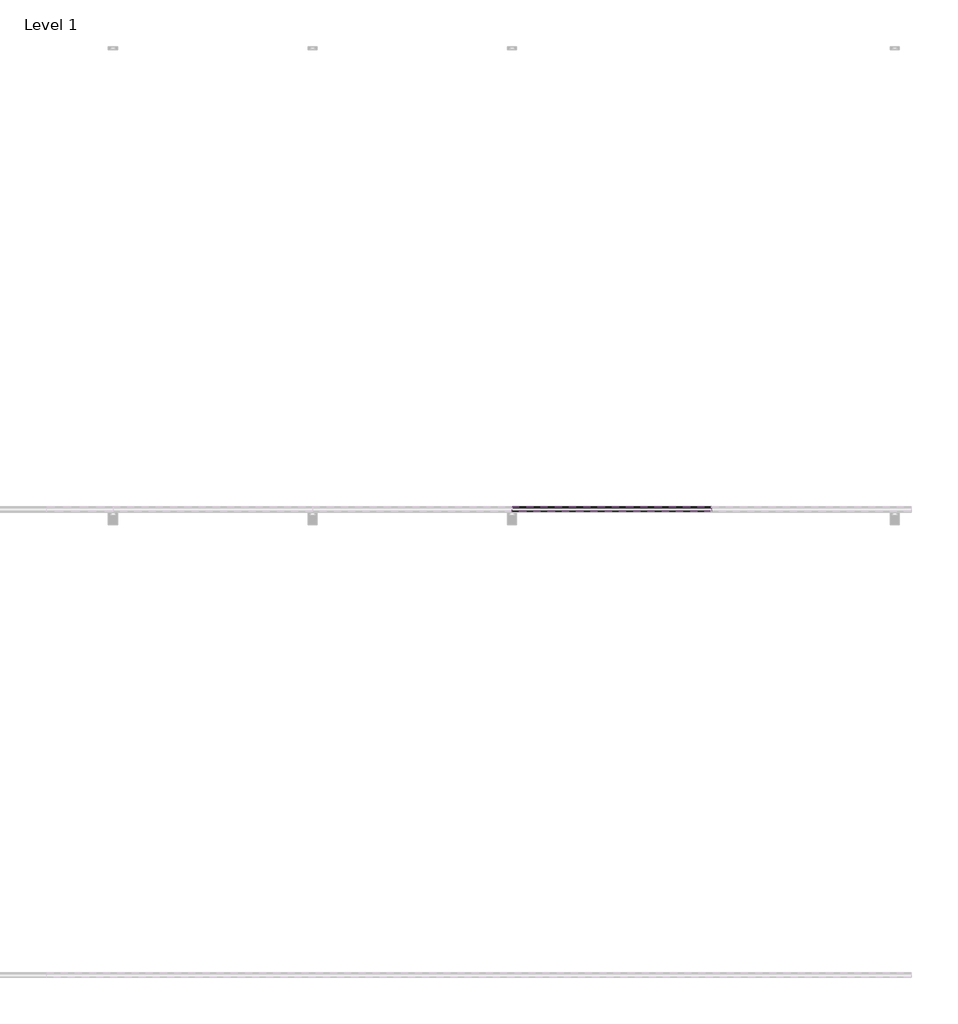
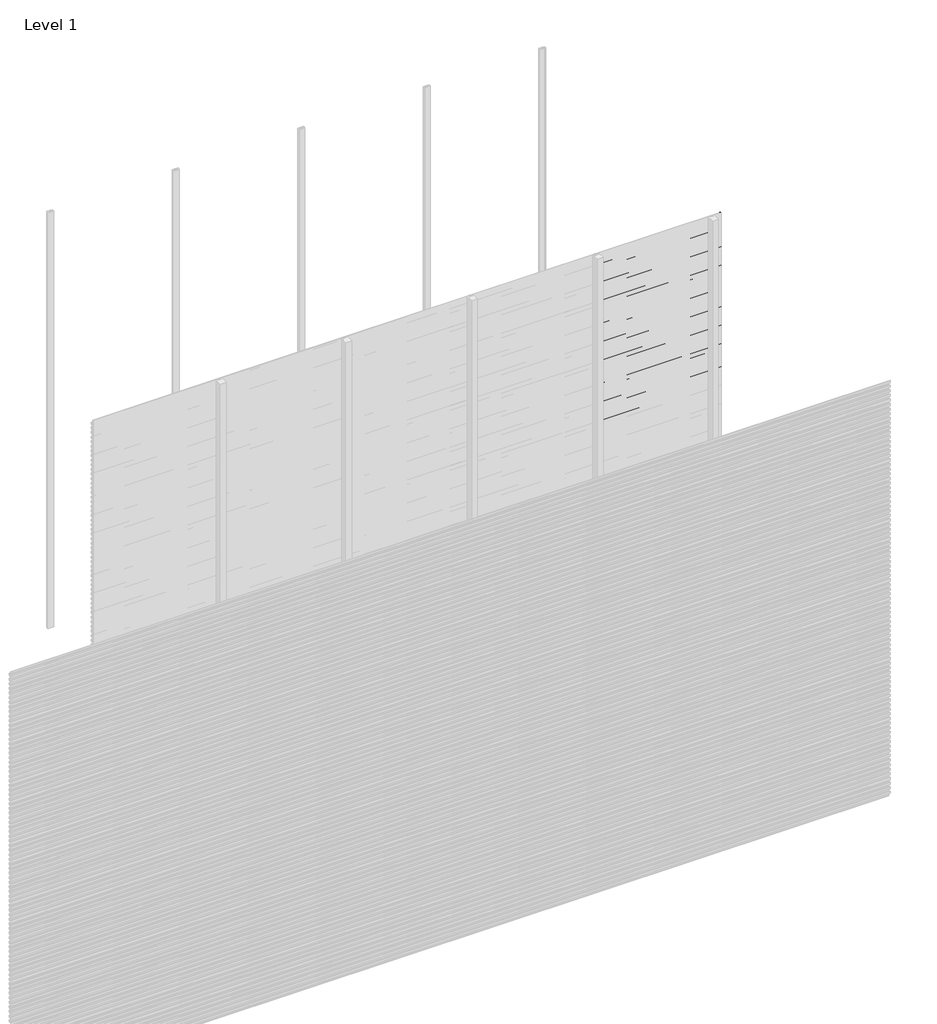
# One storey, part 49 of 96: 77 proxies.
"""IFC4 building model written with IfcOpenShell, lengths in millimetres."""

from ifc_helpers import new_model, si_unit, frame, origin, place, context, project, spatial, polyline, outline, extrude, element, save

model = new_model("IFC4")

# Units and contexts
model_context = context("Model", 3, world=origin())
ifc_project = project(units=[si_unit("LENGTHUNIT", "METRE", prefix="MILLI")], contexts=[model_context])

# Site, building, storey
site = spatial("IfcSite", under=ifc_project)
building = spatial("IfcBuilding", under=site)
storey = spatial("IfcBuildingStorey", under=building, Name="Level 1", Elevation=0.0)

# Proxies
placement = place(None, origin())
element("IfcBuildingElementProxy", 1, Name="Wall Sweeps", at=placement, inside=storey, context=model_context, shape_type="SweptSolid", body=[
    extrude(outline(polyline([(-29977.6, 1306.7655033), (-29977.6, 1292.4779188), (-29982.4114965, 1289.7), (-29982.4114965, 1290.9701706), (-29978.85, 1293.0264016), (-29978.85, 1306.0437382), (-29998.0, 1317.1000799), (-29998.0, 1332.0), (-29996.75, 1332.0), (-29996.75, 1317.8217609), (-29977.6, 1306.7655033)])), frame((4285.7142857, 0.0, 0.0), z_axis=(1.0, 0.0, 0.0), x_axis=(0.0, 1.0, 0.0)), (0.0, 0.0, 1.0), 857.1428571),
])
element("IfcBuildingElementProxy", 2, Name="Wall Sweeps", at=placement, inside=storey, context=model_context, shape_type="SweptSolid", body=[
    extrude(outline(polyline([(-29977.6, 1273.4655033), (-29977.6, 1259.1779188), (-29982.4114965, 1256.4), (-29982.4114965, 1257.6701706), (-29978.85, 1259.7264016), (-29978.85, 1272.7437382), (-29998.0, 1283.8000799), (-29998.0, 1298.7), (-29996.75, 1298.7), (-29996.75, 1284.5217609), (-29977.6, 1273.4655033)])), frame((4285.7142857, 0.0, 0.0), z_axis=(1.0, 0.0, 0.0), x_axis=(0.0, 1.0, 0.0)), (0.0, 0.0, 1.0), 857.1428571),
])
element("IfcBuildingElementProxy", 3, Name="Wall Sweeps", at=placement, inside=storey, context=model_context, shape_type="SweptSolid", body=[
    extrude(outline(polyline([(-29977.6, 1240.1655033), (-29977.6, 1225.8779188), (-29982.4114965, 1223.1), (-29982.4114965, 1224.3701706), (-29978.85, 1226.4264016), (-29978.85, 1239.4437382), (-29998.0, 1250.5000799), (-29998.0, 1265.4), (-29996.75, 1265.4), (-29996.75, 1251.2217609), (-29977.6, 1240.1655033)])), frame((4285.7142857, 0.0, 0.0), z_axis=(1.0, 0.0, 0.0), x_axis=(0.0, 1.0, 0.0)), (0.0, 0.0, 1.0), 857.1428571),
])
element("IfcBuildingElementProxy", 4, Name="Wall Sweeps", at=placement, inside=storey, context=model_context, shape_type="SweptSolid", body=[
    extrude(outline(polyline([(-29977.6, 1206.8655033), (-29977.6, 1192.5779188), (-29982.4114965, 1189.8), (-29982.4114965, 1191.0701706), (-29978.85, 1193.1264016), (-29978.85, 1206.1437382), (-29998.0, 1217.2000799), (-29998.0, 1232.1), (-29996.75, 1232.1), (-29996.75, 1217.9217609), (-29977.6, 1206.8655033)])), frame((4285.7142857, 0.0, 0.0), z_axis=(1.0, 0.0, 0.0), x_axis=(0.0, 1.0, 0.0)), (0.0, 0.0, 1.0), 857.1428571),
])
element("IfcBuildingElementProxy", 5, Name="Wall Sweeps", at=placement, inside=storey, context=model_context, shape_type="SweptSolid", body=[
    extrude(outline(polyline([(-29977.6, 1173.5655033), (-29977.6, 1159.2779188), (-29982.4114965, 1156.5), (-29982.4114965, 1157.7701706), (-29978.85, 1159.8264016), (-29978.85, 1172.8437382), (-29998.0, 1183.9000799), (-29998.0, 1198.8), (-29996.75, 1198.8), (-29996.75, 1184.6217609), (-29977.6, 1173.5655033)])), frame((4285.7142857, 0.0, 0.0), z_axis=(1.0, 0.0, 0.0), x_axis=(0.0, 1.0, 0.0)), (0.0, 0.0, 1.0), 857.1428571),
])
element("IfcBuildingElementProxy", 6, Name="Wall Sweeps", at=placement, inside=storey, context=model_context, shape_type="SweptSolid", body=[
    extrude(outline(polyline([(-29977.6, 1140.2655033), (-29977.6, 1125.9779188), (-29982.4114965, 1123.2), (-29982.4114965, 1124.4701706), (-29978.85, 1126.5264016), (-29978.85, 1139.5437382), (-29998.0, 1150.6000799), (-29998.0, 1165.5), (-29996.75, 1165.5), (-29996.75, 1151.3217609), (-29977.6, 1140.2655033)])), frame((4285.7142857, 0.0, 0.0), z_axis=(1.0, 0.0, 0.0), x_axis=(0.0, 1.0, 0.0)), (0.0, 0.0, 1.0), 857.1428571),
])
element("IfcBuildingElementProxy", 7, Name="Wall Sweeps", at=placement, inside=storey, context=model_context, shape_type="SweptSolid", body=[
    extrude(outline(polyline([(-29977.6, 1106.9655033), (-29977.6, 1092.6779188), (-29982.4114965, 1089.9), (-29982.4114965, 1091.1701706), (-29978.85, 1093.2264016), (-29978.85, 1106.2437382), (-29998.0, 1117.3000799), (-29998.0, 1132.2), (-29996.75, 1132.2), (-29996.75, 1118.0217609), (-29977.6, 1106.9655033)])), frame((4285.7142857, 0.0, 0.0), z_axis=(1.0, 0.0, 0.0), x_axis=(0.0, 1.0, 0.0)), (0.0, 0.0, 1.0), 857.1428571),
])
element("IfcBuildingElementProxy", 8, Name="Wall Sweeps", at=placement, inside=storey, context=model_context, shape_type="SweptSolid", body=[
    extrude(outline(polyline([(-29977.6, 1073.6655033), (-29977.6, 1059.3779188), (-29982.4114965, 1056.6), (-29982.4114965, 1057.8701706), (-29978.85, 1059.9264016), (-29978.85, 1072.9437382), (-29998.0, 1084.0000799), (-29998.0, 1098.9), (-29996.75, 1098.9), (-29996.75, 1084.7217609), (-29977.6, 1073.6655033)])), frame((4285.7142857, 0.0, 0.0), z_axis=(1.0, 0.0, 0.0), x_axis=(0.0, 1.0, 0.0)), (0.0, 0.0, 1.0), 857.1428571),
])
element("IfcBuildingElementProxy", 9, Name="Wall Sweeps", at=placement, inside=storey, context=model_context, shape_type="SweptSolid", body=[
    extrude(outline(polyline([(-29977.6, 1040.3655033), (-29977.6, 1026.0779188), (-29982.4114965, 1023.3), (-29982.4114965, 1024.5701706), (-29978.85, 1026.6264016), (-29978.85, 1039.6437382), (-29998.0, 1050.7000799), (-29998.0, 1065.6), (-29996.75, 1065.6), (-29996.75, 1051.4217609), (-29977.6, 1040.3655033)])), frame((4285.7142857, 0.0, 0.0), z_axis=(1.0, 0.0, 0.0), x_axis=(0.0, 1.0, 0.0)), (0.0, 0.0, 1.0), 857.1428571),
])
element("IfcBuildingElementProxy", 10, Name="Wall Sweeps", at=placement, inside=storey, context=model_context, shape_type="SweptSolid", body=[
    extrude(outline(polyline([(-29977.6, 1007.0655033), (-29977.6, 992.7779188), (-29982.4114965, 990.0), (-29982.4114965, 991.2701706), (-29978.85, 993.3264016), (-29978.85, 1006.3437382), (-29998.0, 1017.4000799), (-29998.0, 1032.3), (-29996.75, 1032.3), (-29996.75, 1018.1217609), (-29977.6, 1007.0655033)])), frame((4285.7142857, 0.0, 0.0), z_axis=(1.0, 0.0, 0.0), x_axis=(0.0, 1.0, 0.0)), (0.0, 0.0, 1.0), 857.1428571),
])
element("IfcBuildingElementProxy", 11, Name="Wall Sweeps", at=placement, inside=storey, context=model_context, shape_type="SweptSolid", body=[
    extrude(outline(polyline([(-29977.6, 973.7655033), (-29977.6, 959.4779188), (-29982.4114965, 956.7), (-29982.4114965, 957.9701706), (-29978.85, 960.0264016), (-29978.85, 973.0437382), (-29998.0, 984.1000799), (-29998.0, 999.0), (-29996.75, 999.0), (-29996.75, 984.8217609), (-29977.6, 973.7655033)])), frame((4285.7142857, 0.0, 0.0), z_axis=(1.0, 0.0, 0.0), x_axis=(0.0, 1.0, 0.0)), (0.0, 0.0, 1.0), 857.1428571),
])
element("IfcBuildingElementProxy", 12, Name="Wall Sweeps", at=placement, inside=storey, context=model_context, shape_type="SweptSolid", body=[
    extrude(outline(polyline([(-29977.6, 940.4655033), (-29977.6, 926.1779188), (-29982.4114965, 923.4), (-29982.4114965, 924.6701706), (-29978.85, 926.7264016), (-29978.85, 939.7437382), (-29998.0, 950.8000799), (-29998.0, 965.7), (-29996.75, 965.7), (-29996.75, 951.5217609), (-29977.6, 940.4655033)])), frame((4285.7142857, 0.0, 0.0), z_axis=(1.0, 0.0, 0.0), x_axis=(0.0, 1.0, 0.0)), (0.0, 0.0, 1.0), 857.1428571),
])
element("IfcBuildingElementProxy", 13, Name="Wall Sweeps", at=placement, inside=storey, context=model_context, shape_type="SweptSolid", body=[
    extrude(outline(polyline([(-29977.6, 907.1655033), (-29977.6, 892.8779188), (-29982.4114965, 890.1), (-29982.4114965, 891.3701706), (-29978.85, 893.4264016), (-29978.85, 906.4437382), (-29998.0, 917.5000799), (-29998.0, 932.4), (-29996.75, 932.4), (-29996.75, 918.2217609), (-29977.6, 907.1655033)])), frame((4285.7142857, 0.0, 0.0), z_axis=(1.0, 0.0, 0.0), x_axis=(0.0, 1.0, 0.0)), (0.0, 0.0, 1.0), 857.1428571),
])
element("IfcBuildingElementProxy", 14, Name="Wall Sweeps", at=placement, inside=storey, context=model_context, shape_type="SweptSolid", body=[
    extrude(outline(polyline([(-29977.6, 873.8655033), (-29977.6, 859.5779188), (-29982.4114965, 856.8), (-29982.4114965, 858.0701706), (-29978.85, 860.1264016), (-29978.85, 873.1437382), (-29998.0, 884.2000799), (-29998.0, 899.1), (-29996.75, 899.1), (-29996.75, 884.9217609), (-29977.6, 873.8655033)])), frame((4285.7142857, 0.0, 0.0), z_axis=(1.0, 0.0, 0.0), x_axis=(0.0, 1.0, 0.0)), (0.0, 0.0, 1.0), 857.1428571),
])
element("IfcBuildingElementProxy", 15, Name="Wall Sweeps", at=placement, inside=storey, context=model_context, shape_type="SweptSolid", body=[
    extrude(outline(polyline([(-29977.6, 840.5655033), (-29977.6, 826.2779188), (-29982.4114965, 823.5), (-29982.4114965, 824.7701706), (-29978.85, 826.8264016), (-29978.85, 839.8437382), (-29998.0, 850.9000799), (-29998.0, 865.8), (-29996.75, 865.8), (-29996.75, 851.6217609), (-29977.6, 840.5655033)])), frame((4285.7142857, 0.0, 0.0), z_axis=(1.0, 0.0, 0.0), x_axis=(0.0, 1.0, 0.0)), (0.0, 0.0, 1.0), 857.1428571),
])
element("IfcBuildingElementProxy", 16, Name="Wall Sweeps", at=placement, inside=storey, context=model_context, shape_type="SweptSolid", body=[
    extrude(outline(polyline([(-29977.6, 807.2655033), (-29977.6, 792.9779188), (-29982.4114965, 790.2), (-29982.4114965, 791.4701706), (-29978.85, 793.5264016), (-29978.85, 806.5437382), (-29998.0, 817.6000799), (-29998.0, 832.5), (-29996.75, 832.5), (-29996.75, 818.3217609), (-29977.6, 807.2655033)])), frame((4285.7142857, 0.0, 0.0), z_axis=(1.0, 0.0, 0.0), x_axis=(0.0, 1.0, 0.0)), (0.0, 0.0, 1.0), 857.1428571),
])
element("IfcBuildingElementProxy", 17, Name="Wall Sweeps", at=placement, inside=storey, context=model_context, shape_type="SweptSolid", body=[
    extrude(outline(polyline([(-29977.6, 773.9655033), (-29977.6, 759.6779188), (-29982.4114965, 756.9), (-29982.4114965, 758.1701706), (-29978.85, 760.2264016), (-29978.85, 773.2437382), (-29998.0, 784.3000799), (-29998.0, 799.2), (-29996.75, 799.2), (-29996.75, 785.0217609), (-29977.6, 773.9655033)])), frame((4285.7142857, 0.0, 0.0), z_axis=(1.0, 0.0, 0.0), x_axis=(0.0, 1.0, 0.0)), (0.0, 0.0, 1.0), 857.1428571),
])
element("IfcBuildingElementProxy", 18, Name="Wall Sweeps", at=placement, inside=storey, context=model_context, shape_type="SweptSolid", body=[
    extrude(outline(polyline([(-29977.6, 740.6655033), (-29977.6, 726.3779188), (-29982.4114965, 723.6), (-29982.4114965, 724.8701706), (-29978.85, 726.9264016), (-29978.85, 739.9437382), (-29998.0, 751.0000799), (-29998.0, 765.9), (-29996.75, 765.9), (-29996.75, 751.7217609), (-29977.6, 740.6655033)])), frame((4285.7142857, 0.0, 0.0), z_axis=(1.0, 0.0, 0.0), x_axis=(0.0, 1.0, 0.0)), (0.0, 0.0, 1.0), 857.1428571),
])
element("IfcBuildingElementProxy", 19, Name="Wall Sweeps", at=placement, inside=storey, context=model_context, shape_type="SweptSolid", body=[
    extrude(outline(polyline([(-29977.6, 707.3655033), (-29977.6, 693.0779188), (-29982.4114965, 690.3), (-29982.4114965, 691.5701706), (-29978.85, 693.6264016), (-29978.85, 706.6437382), (-29998.0, 717.7000799), (-29998.0, 732.6), (-29996.75, 732.6), (-29996.75, 718.4217609), (-29977.6, 707.3655033)])), frame((4285.7142857, 0.0, 0.0), z_axis=(1.0, 0.0, 0.0), x_axis=(0.0, 1.0, 0.0)), (0.0, 0.0, 1.0), 857.1428571),
])
element("IfcBuildingElementProxy", 20, Name="Wall Sweeps", at=placement, inside=storey, context=model_context, shape_type="SweptSolid", body=[
    extrude(outline(polyline([(-29977.6, 674.0655033), (-29977.6, 659.7779188), (-29982.4114965, 657.0), (-29982.4114965, 658.2701706), (-29978.85, 660.3264016), (-29978.85, 673.3437382), (-29998.0, 684.4000799), (-29998.0, 699.3), (-29996.75, 699.3), (-29996.75, 685.1217609), (-29977.6, 674.0655033)])), frame((4285.7142857, 0.0, 0.0), z_axis=(1.0, 0.0, 0.0), x_axis=(0.0, 1.0, 0.0)), (0.0, 0.0, 1.0), 857.1428571),
])
element("IfcBuildingElementProxy", 21, Name="Wall Sweeps", at=placement, inside=storey, context=model_context, shape_type="SweptSolid", body=[
    extrude(outline(polyline([(-29977.6, 640.7655033), (-29977.6, 626.4779188), (-29982.4114965, 623.7), (-29982.4114965, 624.9701706), (-29978.85, 627.0264016), (-29978.85, 640.0437382), (-29998.0, 651.1000799), (-29998.0, 666.0), (-29996.75, 666.0), (-29996.75, 651.8217609), (-29977.6, 640.7655033)])), frame((4285.7142857, 0.0, 0.0), z_axis=(1.0, 0.0, 0.0), x_axis=(0.0, 1.0, 0.0)), (0.0, 0.0, 1.0), 857.1428571),
])
element("IfcBuildingElementProxy", 22, Name="Wall Sweeps", at=placement, inside=storey, context=model_context, shape_type="SweptSolid", body=[
    extrude(outline(polyline([(-29977.6, 607.4655033), (-29977.6, 593.1779188), (-29982.4114965, 590.4), (-29982.4114965, 591.6701706), (-29978.85, 593.7264016), (-29978.85, 606.7437382), (-29998.0, 617.8000799), (-29998.0, 632.7), (-29996.75, 632.7), (-29996.75, 618.5217609), (-29977.6, 607.4655033)])), frame((4285.7142857, 0.0, 0.0), z_axis=(1.0, 0.0, 0.0), x_axis=(0.0, 1.0, 0.0)), (0.0, 0.0, 1.0), 857.1428571),
])
element("IfcBuildingElementProxy", 23, Name="Wall Sweeps", at=placement, inside=storey, context=model_context, shape_type="SweptSolid", body=[
    extrude(outline(polyline([(-29977.6, 574.1655033), (-29977.6, 559.8779188), (-29982.4114965, 557.1), (-29982.4114965, 558.3701706), (-29978.85, 560.4264016), (-29978.85, 573.4437382), (-29998.0, 584.5000799), (-29998.0, 599.4), (-29996.75, 599.4), (-29996.75, 585.2217609), (-29977.6, 574.1655033)])), frame((4285.7142857, 0.0, 0.0), z_axis=(1.0, 0.0, 0.0), x_axis=(0.0, 1.0, 0.0)), (0.0, 0.0, 1.0), 857.1428571),
])
element("IfcBuildingElementProxy", 24, Name="Wall Sweeps", at=placement, inside=storey, context=model_context, shape_type="SweptSolid", body=[
    extrude(outline(polyline([(-29977.6, 540.8655033), (-29977.6, 526.5779188), (-29982.4114965, 523.8), (-29982.4114965, 525.0701706), (-29978.85, 527.1264016), (-29978.85, 540.1437382), (-29998.0, 551.2000799), (-29998.0, 566.1), (-29996.75, 566.1), (-29996.75, 551.9217609), (-29977.6, 540.8655033)])), frame((4285.7142857, 0.0, 0.0), z_axis=(1.0, 0.0, 0.0), x_axis=(0.0, 1.0, 0.0)), (0.0, 0.0, 1.0), 857.1428571),
])
element("IfcBuildingElementProxy", 25, Name="Wall Sweeps", at=placement, inside=storey, context=model_context, shape_type="SweptSolid", body=[
    extrude(outline(polyline([(-29977.6, 507.5655033), (-29977.6, 493.2779188), (-29982.4114965, 490.5), (-29982.4114965, 491.7701706), (-29978.85, 493.8264016), (-29978.85, 506.8437382), (-29998.0, 517.9000799), (-29998.0, 532.8), (-29996.75, 532.8), (-29996.75, 518.6217609), (-29977.6, 507.5655033)])), frame((4285.7142857, 0.0, 0.0), z_axis=(1.0, 0.0, 0.0), x_axis=(0.0, 1.0, 0.0)), (0.0, 0.0, 1.0), 857.1428571),
])
element("IfcBuildingElementProxy", 26, Name="Wall Sweeps", at=placement, inside=storey, context=model_context, shape_type="SweptSolid", body=[
    extrude(outline(polyline([(-29977.6, 474.2655033), (-29977.6, 459.9779188), (-29982.4114965, 457.2), (-29982.4114965, 458.4701706), (-29978.85, 460.5264016), (-29978.85, 473.5437382), (-29998.0, 484.6000799), (-29998.0, 499.5), (-29996.75, 499.5), (-29996.75, 485.3217609), (-29977.6, 474.2655033)])), frame((4285.7142857, 0.0, 0.0), z_axis=(1.0, 0.0, 0.0), x_axis=(0.0, 1.0, 0.0)), (0.0, 0.0, 1.0), 857.1428571),
])
element("IfcBuildingElementProxy", 27, Name="Wall Sweeps", at=placement, inside=storey, context=model_context, shape_type="SweptSolid", body=[
    extrude(outline(polyline([(-29977.6, 440.9655033), (-29977.6, 426.6779188), (-29982.4114965, 423.9), (-29982.4114965, 425.1701706), (-29978.85, 427.2264016), (-29978.85, 440.2437382), (-29998.0, 451.3000799), (-29998.0, 466.2), (-29996.75, 466.2), (-29996.75, 452.0217609), (-29977.6, 440.9655033)])), frame((4285.7142857, 0.0, 0.0), z_axis=(1.0, 0.0, 0.0), x_axis=(0.0, 1.0, 0.0)), (0.0, 0.0, 1.0), 857.1428571),
])
element("IfcBuildingElementProxy", 28, Name="Wall Sweeps", at=placement, inside=storey, context=model_context, shape_type="SweptSolid", body=[
    extrude(outline(polyline([(-29977.6, 407.6655033), (-29977.6, 393.3779188), (-29982.4114965, 390.6), (-29982.4114965, 391.8701706), (-29978.85, 393.9264016), (-29978.85, 406.9437382), (-29998.0, 418.0000799), (-29998.0, 432.9), (-29996.75, 432.9), (-29996.75, 418.7217609), (-29977.6, 407.6655033)])), frame((4285.7142857, 0.0, 0.0), z_axis=(1.0, 0.0, 0.0), x_axis=(0.0, 1.0, 0.0)), (0.0, 0.0, 1.0), 857.1428571),
])
element("IfcBuildingElementProxy", 29, Name="Wall Sweeps", at=placement, inside=storey, context=model_context, shape_type="SweptSolid", body=[
    extrude(outline(polyline([(-29977.6, 374.3655033), (-29977.6, 360.0779188), (-29982.4114965, 357.3), (-29982.4114965, 358.5701706), (-29978.85, 360.6264016), (-29978.85, 373.6437382), (-29998.0, 384.7000799), (-29998.0, 399.6), (-29996.75, 399.6), (-29996.75, 385.4217609), (-29977.6, 374.3655033)])), frame((4285.7142857, 0.0, 0.0), z_axis=(1.0, 0.0, 0.0), x_axis=(0.0, 1.0, 0.0)), (0.0, 0.0, 1.0), 857.1428571),
])
element("IfcBuildingElementProxy", 30, Name="Wall Sweeps", at=placement, inside=storey, context=model_context, shape_type="SweptSolid", body=[
    extrude(outline(polyline([(-29977.6, 341.0655033), (-29977.6, 326.7779188), (-29982.4114965, 324.0), (-29982.4114965, 325.2701706), (-29978.85, 327.3264016), (-29978.85, 340.3437382), (-29998.0, 351.4000799), (-29998.0, 366.3), (-29996.75, 366.3), (-29996.75, 352.1217609), (-29977.6, 341.0655033)])), frame((4285.7142857, 0.0, 0.0), z_axis=(1.0, 0.0, 0.0), x_axis=(0.0, 1.0, 0.0)), (0.0, 0.0, 1.0), 857.1428571),
])
element("IfcBuildingElementProxy", 31, Name="Wall Sweeps", at=placement, inside=storey, context=model_context, shape_type="SweptSolid", body=[
    extrude(outline(polyline([(-29977.6, 307.7655033), (-29977.6, 293.4779188), (-29982.4114965, 290.7), (-29982.4114965, 291.9701706), (-29978.85, 294.0264016), (-29978.85, 307.0437382), (-29998.0, 318.1000799), (-29998.0, 333.0), (-29996.75, 333.0), (-29996.75, 318.8217609), (-29977.6, 307.7655033)])), frame((4285.7142857, 0.0, 0.0), z_axis=(1.0, 0.0, 0.0), x_axis=(0.0, 1.0, 0.0)), (0.0, 0.0, 1.0), 857.1428571),
])
element("IfcBuildingElementProxy", 32, Name="Wall Sweeps", at=placement, inside=storey, context=model_context, shape_type="SweptSolid", body=[
    extrude(outline(polyline([(-29977.6, 274.4655033), (-29977.6, 260.1779188), (-29982.4114965, 257.4), (-29982.4114965, 258.6701706), (-29978.85, 260.7264016), (-29978.85, 273.7437382), (-29998.0, 284.8000799), (-29998.0, 299.7), (-29996.75, 299.7), (-29996.75, 285.5217609), (-29977.6, 274.4655033)])), frame((4285.7142857, 0.0, 0.0), z_axis=(1.0, 0.0, 0.0), x_axis=(0.0, 1.0, 0.0)), (0.0, 0.0, 1.0), 857.1428571),
])
element("IfcBuildingElementProxy", 33, Name="Wall Sweeps", at=placement, inside=storey, context=model_context, shape_type="SweptSolid", body=[
    extrude(outline(polyline([(-29977.6, 241.1655033), (-29977.6, 226.8779188), (-29982.4114965, 224.1), (-29982.4114965, 225.3701706), (-29978.85, 227.4264016), (-29978.85, 240.4437382), (-29998.0, 251.5000799), (-29998.0, 266.4), (-29996.75, 266.4), (-29996.75, 252.2217609), (-29977.6, 241.1655033)])), frame((4285.7142857, 0.0, 0.0), z_axis=(1.0, 0.0, 0.0), x_axis=(0.0, 1.0, 0.0)), (0.0, 0.0, 1.0), 857.1428571),
])
element("IfcBuildingElementProxy", 34, Name="Wall Sweeps", at=placement, inside=storey, context=model_context, shape_type="SweptSolid", body=[
    extrude(outline(polyline([(-29977.6, 207.8655033), (-29977.6, 193.5779188), (-29982.4114965, 190.8), (-29982.4114965, 192.0701706), (-29978.85, 194.1264016), (-29978.85, 207.1437382), (-29998.0, 218.2000799), (-29998.0, 233.1), (-29996.75, 233.1), (-29996.75, 218.9217609), (-29977.6, 207.8655033)])), frame((4285.7142857, 0.0, 0.0), z_axis=(1.0, 0.0, 0.0), x_axis=(0.0, 1.0, 0.0)), (0.0, 0.0, 1.0), 857.1428571),
])
element("IfcBuildingElementProxy", 35, Name="Wall Sweeps", at=placement, inside=storey, context=model_context, shape_type="SweptSolid", body=[
    extrude(outline(polyline([(-29977.6, 174.5655033), (-29977.6, 160.2779188), (-29982.4114965, 157.5), (-29982.4114965, 158.7701706), (-29978.85, 160.8264016), (-29978.85, 173.8437382), (-29998.0, 184.9000799), (-29998.0, 199.8), (-29996.75, 199.8), (-29996.75, 185.6217609), (-29977.6, 174.5655033)])), frame((4285.7142857, 0.0, 0.0), z_axis=(1.0, 0.0, 0.0), x_axis=(0.0, 1.0, 0.0)), (0.0, 0.0, 1.0), 857.1428571),
])
element("IfcBuildingElementProxy", 36, Name="Wall Sweeps", at=placement, inside=storey, context=model_context, shape_type="SweptSolid", body=[
    extrude(outline(polyline([(-29977.6, 141.2655033), (-29977.6, 126.9779188), (-29982.4114965, 124.2), (-29982.4114965, 125.4701706), (-29978.85, 127.5264016), (-29978.85, 140.5437382), (-29998.0, 151.6000799), (-29998.0, 166.5), (-29996.75, 166.5), (-29996.75, 152.3217609), (-29977.6, 141.2655033)])), frame((4285.7142857, 0.0, 0.0), z_axis=(1.0, 0.0, 0.0), x_axis=(0.0, 1.0, 0.0)), (0.0, 0.0, 1.0), 857.1428571),
])
element("IfcBuildingElementProxy", 37, Name="Wall Sweeps", at=placement, inside=storey, context=model_context, shape_type="SweptSolid", body=[
    extrude(outline(polyline([(-29977.6, 107.9655033), (-29977.6, 93.6779188), (-29982.4114965, 90.9), (-29982.4114965, 92.1701706), (-29978.85, 94.2264016), (-29978.85, 107.2437382), (-29998.0, 118.3000799), (-29998.0, 133.2), (-29996.75, 133.2), (-29996.75, 119.0217609), (-29977.6, 107.9655033)])), frame((4285.7142857, 0.0, 0.0), z_axis=(1.0, 0.0, 0.0), x_axis=(0.0, 1.0, 0.0)), (0.0, 0.0, 1.0), 857.1428571),
])
element("IfcBuildingElementProxy", 38, Name="Wall Sweeps", at=placement, inside=storey, context=model_context, shape_type="SweptSolid", body=[
    extrude(outline(polyline([(-29977.6, 74.6655033), (-29977.6, 60.3779188), (-29982.4114965, 57.6), (-29982.4114965, 58.8701706), (-29978.85, 60.9264016), (-29978.85, 73.9437382), (-29998.0, 85.0000799), (-29998.0, 99.9), (-29996.75, 99.9), (-29996.75, 85.7217609), (-29977.6, 74.6655033)])), frame((4285.7142857, 0.0, 0.0), z_axis=(1.0, 0.0, 0.0), x_axis=(0.0, 1.0, 0.0)), (0.0, 0.0, 1.0), 857.1428571),
])
element("IfcBuildingElementProxy", 39, Name="Wall Sweeps", at=placement, inside=storey, context=model_context, shape_type="SweptSolid", body=[
    extrude(outline(polyline([(-29977.6, 41.3655033), (-29977.6, 27.0779188), (-29982.4114965, 24.3), (-29982.4114965, 25.5701706), (-29978.85, 27.6264016), (-29978.85, 40.6437382), (-29998.0, 51.7000799), (-29998.0, 66.6), (-29996.75, 66.6), (-29996.75, 52.4217609), (-29977.6, 41.3655033)])), frame((4285.7142857, 0.0, 0.0), z_axis=(1.0, 0.0, 0.0), x_axis=(0.0, 1.0, 0.0)), (0.0, 0.0, 1.0), 857.1428571),
])
element("IfcBuildingElementProxy", 40, Name="Wall Sweeps", at=placement, inside=storey, context=model_context, shape_type="SweptSolid", body=[
    extrude(outline(polyline([(-29977.6, 8.0655033), (-29977.6, -6.2220812), (-29982.4114965, -9.0), (-29982.4114965, -7.7298294), (-29978.85, -5.6735984), (-29978.85, 7.3437382), (-29998.0, 18.4000799), (-29998.0, 33.3), (-29996.75, 33.3), (-29996.75, 19.1217609), (-29977.6, 8.0655033)])), frame((4285.7142857, 0.0, 0.0), z_axis=(1.0, 0.0, 0.0), x_axis=(0.0, 1.0, 0.0)), (0.0, 0.0, 1.0), 857.1428571),
])
element("IfcBuildingElementProxy", 41, Name="Wall Sweeps", at=placement, inside=storey, context=model_context, shape_type="SweptSolid", body=[
    extrude(outline(polyline([(-29977.6, 2971.7655033), (-29977.6, 2957.4779188), (-29982.4114965, 2954.7), (-29982.4114965, 2955.9701706), (-29978.85, 2958.0264016), (-29978.85, 2971.0437382), (-29998.0, 2982.1000799), (-29998.0, 2997.0), (-29996.75, 2997.0), (-29996.75, 2982.8217609), (-29977.6, 2971.7655033)])), frame((5142.8571429, 0.0, 0.0), z_axis=(1.0, 0.0, 0.0), x_axis=(0.0, 1.0, 0.0)), (0.0, 0.0, 1.0), 857.1428571),
])
element("IfcBuildingElementProxy", 42, Name="Wall Sweeps", at=placement, inside=storey, context=model_context, shape_type="SweptSolid", body=[
    extrude(outline(polyline([(-29977.6, 2938.4655033), (-29977.6, 2924.1779188), (-29982.4114965, 2921.4), (-29982.4114965, 2922.6701706), (-29978.85, 2924.7264016), (-29978.85, 2937.7437382), (-29998.0, 2948.8000799), (-29998.0, 2963.7), (-29996.75, 2963.7), (-29996.75, 2949.5217609), (-29977.6, 2938.4655033)])), frame((5142.8571429, 0.0, 0.0), z_axis=(1.0, 0.0, 0.0), x_axis=(0.0, 1.0, 0.0)), (0.0, 0.0, 1.0), 857.1428571),
])
element("IfcBuildingElementProxy", 43, Name="Wall Sweeps", at=placement, inside=storey, context=model_context, shape_type="SweptSolid", body=[
    extrude(outline(polyline([(-29977.6, 2905.1655033), (-29977.6, 2890.8779188), (-29982.4114965, 2888.1), (-29982.4114965, 2889.3701706), (-29978.85, 2891.4264016), (-29978.85, 2904.4437382), (-29998.0, 2915.5000799), (-29998.0, 2930.4), (-29996.75, 2930.4), (-29996.75, 2916.2217609), (-29977.6, 2905.1655033)])), frame((5142.8571429, 0.0, 0.0), z_axis=(1.0, 0.0, 0.0), x_axis=(0.0, 1.0, 0.0)), (0.0, 0.0, 1.0), 857.1428571),
])
element("IfcBuildingElementProxy", 44, Name="Wall Sweeps", at=placement, inside=storey, context=model_context, shape_type="SweptSolid", body=[
    extrude(outline(polyline([(-29977.6, 2871.8655033), (-29977.6, 2857.5779188), (-29982.4114965, 2854.8), (-29982.4114965, 2856.0701706), (-29978.85, 2858.1264016), (-29978.85, 2871.1437382), (-29998.0, 2882.2000799), (-29998.0, 2897.1), (-29996.75, 2897.1), (-29996.75, 2882.9217609), (-29977.6, 2871.8655033)])), frame((5142.8571429, 0.0, 0.0), z_axis=(1.0, 0.0, 0.0), x_axis=(0.0, 1.0, 0.0)), (0.0, 0.0, 1.0), 857.1428571),
])
element("IfcBuildingElementProxy", 45, Name="Wall Sweeps", at=placement, inside=storey, context=model_context, shape_type="SweptSolid", body=[
    extrude(outline(polyline([(-29977.6, 2838.5655033), (-29977.6, 2824.2779188), (-29982.4114965, 2821.5), (-29982.4114965, 2822.7701706), (-29978.85, 2824.8264016), (-29978.85, 2837.8437382), (-29998.0, 2848.9000799), (-29998.0, 2863.8), (-29996.75, 2863.8), (-29996.75, 2849.6217609), (-29977.6, 2838.5655033)])), frame((5142.8571429, 0.0, 0.0), z_axis=(1.0, 0.0, 0.0), x_axis=(0.0, 1.0, 0.0)), (0.0, 0.0, 1.0), 857.1428571),
])
element("IfcBuildingElementProxy", 46, Name="Wall Sweeps", at=placement, inside=storey, context=model_context, shape_type="SweptSolid", body=[
    extrude(outline(polyline([(-29977.6, 2805.2655033), (-29977.6, 2790.9779188), (-29982.4114965, 2788.2), (-29982.4114965, 2789.4701706), (-29978.85, 2791.5264016), (-29978.85, 2804.5437382), (-29998.0, 2815.6000799), (-29998.0, 2830.5), (-29996.75, 2830.5), (-29996.75, 2816.3217609), (-29977.6, 2805.2655033)])), frame((5142.8571429, 0.0, 0.0), z_axis=(1.0, 0.0, 0.0), x_axis=(0.0, 1.0, 0.0)), (0.0, 0.0, 1.0), 857.1428571),
])
element("IfcBuildingElementProxy", 47, Name="Wall Sweeps", at=placement, inside=storey, context=model_context, shape_type="SweptSolid", body=[
    extrude(outline(polyline([(-29977.6, 2771.9655033), (-29977.6, 2757.6779188), (-29982.4114965, 2754.9), (-29982.4114965, 2756.1701706), (-29978.85, 2758.2264016), (-29978.85, 2771.2437382), (-29998.0, 2782.3000799), (-29998.0, 2797.2), (-29996.75, 2797.2), (-29996.75, 2783.0217609), (-29977.6, 2771.9655033)])), frame((5142.8571429, 0.0, 0.0), z_axis=(1.0, 0.0, 0.0), x_axis=(0.0, 1.0, 0.0)), (0.0, 0.0, 1.0), 857.1428571),
])
element("IfcBuildingElementProxy", 48, Name="Wall Sweeps", at=placement, inside=storey, context=model_context, shape_type="SweptSolid", body=[
    extrude(outline(polyline([(-29977.6, 2738.6655033), (-29977.6, 2724.3779188), (-29982.4114965, 2721.6), (-29982.4114965, 2722.8701706), (-29978.85, 2724.9264016), (-29978.85, 2737.9437382), (-29998.0, 2749.0000799), (-29998.0, 2763.9), (-29996.75, 2763.9), (-29996.75, 2749.7217609), (-29977.6, 2738.6655033)])), frame((5142.8571429, 0.0, 0.0), z_axis=(1.0, 0.0, 0.0), x_axis=(0.0, 1.0, 0.0)), (0.0, 0.0, 1.0), 857.1428571),
])
element("IfcBuildingElementProxy", 49, Name="Wall Sweeps", at=placement, inside=storey, context=model_context, shape_type="SweptSolid", body=[
    extrude(outline(polyline([(-29977.6, 2705.3655033), (-29977.6, 2691.0779188), (-29982.4114965, 2688.3), (-29982.4114965, 2689.5701706), (-29978.85, 2691.6264016), (-29978.85, 2704.6437382), (-29998.0, 2715.7000799), (-29998.0, 2730.6), (-29996.75, 2730.6), (-29996.75, 2716.4217609), (-29977.6, 2705.3655033)])), frame((5142.8571429, 0.0, 0.0), z_axis=(1.0, 0.0, 0.0), x_axis=(0.0, 1.0, 0.0)), (0.0, 0.0, 1.0), 857.1428571),
])
element("IfcBuildingElementProxy", 50, Name="Wall Sweeps", at=placement, inside=storey, context=model_context, shape_type="SweptSolid", body=[
    extrude(outline(polyline([(-29977.6, 2672.0655033), (-29977.6, 2657.7779188), (-29982.4114965, 2655.0), (-29982.4114965, 2656.2701706), (-29978.85, 2658.3264016), (-29978.85, 2671.3437382), (-29998.0, 2682.4000799), (-29998.0, 2697.3), (-29996.75, 2697.3), (-29996.75, 2683.1217609), (-29977.6, 2672.0655033)])), frame((5142.8571429, 0.0, 0.0), z_axis=(1.0, 0.0, 0.0), x_axis=(0.0, 1.0, 0.0)), (0.0, 0.0, 1.0), 857.1428571),
])
element("IfcBuildingElementProxy", 51, Name="Wall Sweeps", at=placement, inside=storey, context=model_context, shape_type="SweptSolid", body=[
    extrude(outline(polyline([(-29977.6, 2638.7655033), (-29977.6, 2624.4779188), (-29982.4114965, 2621.7), (-29982.4114965, 2622.9701706), (-29978.85, 2625.0264016), (-29978.85, 2638.0437382), (-29998.0, 2649.1000799), (-29998.0, 2664.0), (-29996.75, 2664.0), (-29996.75, 2649.8217609), (-29977.6, 2638.7655033)])), frame((5142.8571429, 0.0, 0.0), z_axis=(1.0, 0.0, 0.0), x_axis=(0.0, 1.0, 0.0)), (0.0, 0.0, 1.0), 857.1428571),
])
element("IfcBuildingElementProxy", 52, Name="Wall Sweeps", at=placement, inside=storey, context=model_context, shape_type="SweptSolid", body=[
    extrude(outline(polyline([(-29977.6, 2605.4655033), (-29977.6, 2591.1779188), (-29982.4114965, 2588.4), (-29982.4114965, 2589.6701706), (-29978.85, 2591.7264016), (-29978.85, 2604.7437382), (-29998.0, 2615.8000799), (-29998.0, 2630.7), (-29996.75, 2630.7), (-29996.75, 2616.5217609), (-29977.6, 2605.4655033)])), frame((5142.8571429, 0.0, 0.0), z_axis=(1.0, 0.0, 0.0), x_axis=(0.0, 1.0, 0.0)), (0.0, 0.0, 1.0), 857.1428571),
])
element("IfcBuildingElementProxy", 53, Name="Wall Sweeps", at=placement, inside=storey, context=model_context, shape_type="SweptSolid", body=[
    extrude(outline(polyline([(-29977.6, 2572.1655033), (-29977.6, 2557.8779188), (-29982.4114965, 2555.1), (-29982.4114965, 2556.3701706), (-29978.85, 2558.4264016), (-29978.85, 2571.4437382), (-29998.0, 2582.5000799), (-29998.0, 2597.4), (-29996.75, 2597.4), (-29996.75, 2583.2217609), (-29977.6, 2572.1655033)])), frame((5142.8571429, 0.0, 0.0), z_axis=(1.0, 0.0, 0.0), x_axis=(0.0, 1.0, 0.0)), (0.0, 0.0, 1.0), 857.1428571),
])
element("IfcBuildingElementProxy", 54, Name="Wall Sweeps", at=placement, inside=storey, context=model_context, shape_type="SweptSolid", body=[
    extrude(outline(polyline([(-29977.6, 2538.8655033), (-29977.6, 2524.5779188), (-29982.4114965, 2521.8), (-29982.4114965, 2523.0701706), (-29978.85, 2525.1264016), (-29978.85, 2538.1437382), (-29998.0, 2549.2000799), (-29998.0, 2564.1), (-29996.75, 2564.1), (-29996.75, 2549.9217609), (-29977.6, 2538.8655033)])), frame((5142.8571429, 0.0, 0.0), z_axis=(1.0, 0.0, 0.0), x_axis=(0.0, 1.0, 0.0)), (0.0, 0.0, 1.0), 857.1428571),
])
element("IfcBuildingElementProxy", 55, Name="Wall Sweeps", at=placement, inside=storey, context=model_context, shape_type="SweptSolid", body=[
    extrude(outline(polyline([(-29977.6, 2505.5655033), (-29977.6, 2491.2779188), (-29982.4114965, 2488.5), (-29982.4114965, 2489.7701706), (-29978.85, 2491.8264016), (-29978.85, 2504.8437382), (-29998.0, 2515.9000799), (-29998.0, 2530.8), (-29996.75, 2530.8), (-29996.75, 2516.6217609), (-29977.6, 2505.5655033)])), frame((5142.8571429, 0.0, 0.0), z_axis=(1.0, 0.0, 0.0), x_axis=(0.0, 1.0, 0.0)), (0.0, 0.0, 1.0), 857.1428571),
])
element("IfcBuildingElementProxy", 56, Name="Wall Sweeps", at=placement, inside=storey, context=model_context, shape_type="SweptSolid", body=[
    extrude(outline(polyline([(-29977.6, 2472.2655033), (-29977.6, 2457.9779188), (-29982.4114965, 2455.2), (-29982.4114965, 2456.4701706), (-29978.85, 2458.5264016), (-29978.85, 2471.5437382), (-29998.0, 2482.6000799), (-29998.0, 2497.5), (-29996.75, 2497.5), (-29996.75, 2483.3217609), (-29977.6, 2472.2655033)])), frame((5142.8571429, 0.0, 0.0), z_axis=(1.0, 0.0, 0.0), x_axis=(0.0, 1.0, 0.0)), (0.0, 0.0, 1.0), 857.1428571),
])
element("IfcBuildingElementProxy", 57, Name="Wall Sweeps", at=placement, inside=storey, context=model_context, shape_type="SweptSolid", body=[
    extrude(outline(polyline([(-29977.6, 2438.9655033), (-29977.6, 2424.6779188), (-29982.4114965, 2421.9), (-29982.4114965, 2423.1701706), (-29978.85, 2425.2264016), (-29978.85, 2438.2437382), (-29998.0, 2449.3000799), (-29998.0, 2464.2), (-29996.75, 2464.2), (-29996.75, 2450.0217609), (-29977.6, 2438.9655033)])), frame((5142.8571429, 0.0, 0.0), z_axis=(1.0, 0.0, 0.0), x_axis=(0.0, 1.0, 0.0)), (0.0, 0.0, 1.0), 857.1428571),
])
element("IfcBuildingElementProxy", 58, Name="Wall Sweeps", at=placement, inside=storey, context=model_context, shape_type="SweptSolid", body=[
    extrude(outline(polyline([(-29977.6, 2405.6655033), (-29977.6, 2391.3779188), (-29982.4114965, 2388.6), (-29982.4114965, 2389.8701706), (-29978.85, 2391.9264016), (-29978.85, 2404.9437382), (-29998.0, 2416.0000799), (-29998.0, 2430.9), (-29996.75, 2430.9), (-29996.75, 2416.7217609), (-29977.6, 2405.6655033)])), frame((5142.8571429, 0.0, 0.0), z_axis=(1.0, 0.0, 0.0), x_axis=(0.0, 1.0, 0.0)), (0.0, 0.0, 1.0), 857.1428571),
])
element("IfcBuildingElementProxy", 59, Name="Wall Sweeps", at=placement, inside=storey, context=model_context, shape_type="SweptSolid", body=[
    extrude(outline(polyline([(-29977.6, 2372.3655033), (-29977.6, 2358.0779188), (-29982.4114965, 2355.3), (-29982.4114965, 2356.5701706), (-29978.85, 2358.6264016), (-29978.85, 2371.6437382), (-29998.0, 2382.7000799), (-29998.0, 2397.6), (-29996.75, 2397.6), (-29996.75, 2383.4217609), (-29977.6, 2372.3655033)])), frame((5142.8571429, 0.0, 0.0), z_axis=(1.0, 0.0, 0.0), x_axis=(0.0, 1.0, 0.0)), (0.0, 0.0, 1.0), 857.1428571),
])
element("IfcBuildingElementProxy", 60, Name="Wall Sweeps", at=placement, inside=storey, context=model_context, shape_type="SweptSolid", body=[
    extrude(outline(polyline([(-29977.6, 2339.0655033), (-29977.6, 2324.7779188), (-29982.4114965, 2322.0), (-29982.4114965, 2323.2701706), (-29978.85, 2325.3264016), (-29978.85, 2338.3437382), (-29998.0, 2349.4000799), (-29998.0, 2364.3), (-29996.75, 2364.3), (-29996.75, 2350.1217609), (-29977.6, 2339.0655033)])), frame((5142.8571429, 0.0, 0.0), z_axis=(1.0, 0.0, 0.0), x_axis=(0.0, 1.0, 0.0)), (0.0, 0.0, 1.0), 857.1428571),
])
element("IfcBuildingElementProxy", 61, Name="Wall Sweeps", at=placement, inside=storey, context=model_context, shape_type="SweptSolid", body=[
    extrude(outline(polyline([(-29977.6, 2305.7655033), (-29977.6, 2291.4779188), (-29982.4114965, 2288.7), (-29982.4114965, 2289.9701706), (-29978.85, 2292.0264016), (-29978.85, 2305.0437382), (-29998.0, 2316.1000799), (-29998.0, 2331.0), (-29996.75, 2331.0), (-29996.75, 2316.8217609), (-29977.6, 2305.7655033)])), frame((5142.8571429, 0.0, 0.0), z_axis=(1.0, 0.0, 0.0), x_axis=(0.0, 1.0, 0.0)), (0.0, 0.0, 1.0), 857.1428571),
])
element("IfcBuildingElementProxy", 62, Name="Wall Sweeps", at=placement, inside=storey, context=model_context, shape_type="SweptSolid", body=[
    extrude(outline(polyline([(-29977.6, 2272.4655033), (-29977.6, 2258.1779188), (-29982.4114965, 2255.4), (-29982.4114965, 2256.6701706), (-29978.85, 2258.7264016), (-29978.85, 2271.7437382), (-29998.0, 2282.8000799), (-29998.0, 2297.7), (-29996.75, 2297.7), (-29996.75, 2283.5217609), (-29977.6, 2272.4655033)])), frame((5142.8571429, 0.0, 0.0), z_axis=(1.0, 0.0, 0.0), x_axis=(0.0, 1.0, 0.0)), (0.0, 0.0, 1.0), 857.1428571),
])
element("IfcBuildingElementProxy", 63, Name="Wall Sweeps", at=placement, inside=storey, context=model_context, shape_type="SweptSolid", body=[
    extrude(outline(polyline([(-29977.6, 2239.1655033), (-29977.6, 2224.8779188), (-29982.4114965, 2222.1), (-29982.4114965, 2223.3701706), (-29978.85, 2225.4264016), (-29978.85, 2238.4437382), (-29998.0, 2249.5000799), (-29998.0, 2264.4), (-29996.75, 2264.4), (-29996.75, 2250.2217609), (-29977.6, 2239.1655033)])), frame((5142.8571429, 0.0, 0.0), z_axis=(1.0, 0.0, 0.0), x_axis=(0.0, 1.0, 0.0)), (0.0, 0.0, 1.0), 857.1428571),
])
element("IfcBuildingElementProxy", 64, Name="Wall Sweeps", at=placement, inside=storey, context=model_context, shape_type="SweptSolid", body=[
    extrude(outline(polyline([(-29977.6, 2205.8655033), (-29977.6, 2191.5779188), (-29982.4114965, 2188.8), (-29982.4114965, 2190.0701706), (-29978.85, 2192.1264016), (-29978.85, 2205.1437382), (-29998.0, 2216.2000799), (-29998.0, 2231.1), (-29996.75, 2231.1), (-29996.75, 2216.9217609), (-29977.6, 2205.8655033)])), frame((5142.8571429, 0.0, 0.0), z_axis=(1.0, 0.0, 0.0), x_axis=(0.0, 1.0, 0.0)), (0.0, 0.0, 1.0), 857.1428571),
])
element("IfcBuildingElementProxy", 65, Name="Wall Sweeps", at=placement, inside=storey, context=model_context, shape_type="SweptSolid", body=[
    extrude(outline(polyline([(-29977.6, 2172.5655033), (-29977.6, 2158.2779188), (-29982.4114965, 2155.5), (-29982.4114965, 2156.7701706), (-29978.85, 2158.8264016), (-29978.85, 2171.8437382), (-29998.0, 2182.9000799), (-29998.0, 2197.8), (-29996.75, 2197.8), (-29996.75, 2183.6217609), (-29977.6, 2172.5655033)])), frame((5142.8571429, 0.0, 0.0), z_axis=(1.0, 0.0, 0.0), x_axis=(0.0, 1.0, 0.0)), (0.0, 0.0, 1.0), 857.1428571),
])
element("IfcBuildingElementProxy", 66, Name="Wall Sweeps", at=placement, inside=storey, context=model_context, shape_type="SweptSolid", body=[
    extrude(outline(polyline([(-29977.6, 2139.2655033), (-29977.6, 2124.9779188), (-29982.4114965, 2122.2), (-29982.4114965, 2123.4701706), (-29978.85, 2125.5264016), (-29978.85, 2138.5437382), (-29998.0, 2149.6000799), (-29998.0, 2164.5), (-29996.75, 2164.5), (-29996.75, 2150.3217609), (-29977.6, 2139.2655033)])), frame((5142.8571429, 0.0, 0.0), z_axis=(1.0, 0.0, 0.0), x_axis=(0.0, 1.0, 0.0)), (0.0, 0.0, 1.0), 857.1428571),
])
element("IfcBuildingElementProxy", 67, Name="Wall Sweeps", at=placement, inside=storey, context=model_context, shape_type="SweptSolid", body=[
    extrude(outline(polyline([(-29977.6, 2105.9655033), (-29977.6, 2091.6779188), (-29982.4114965, 2088.9), (-29982.4114965, 2090.1701706), (-29978.85, 2092.2264016), (-29978.85, 2105.2437382), (-29998.0, 2116.3000799), (-29998.0, 2131.2), (-29996.75, 2131.2), (-29996.75, 2117.0217609), (-29977.6, 2105.9655033)])), frame((5142.8571429, 0.0, 0.0), z_axis=(1.0, 0.0, 0.0), x_axis=(0.0, 1.0, 0.0)), (0.0, 0.0, 1.0), 857.1428571),
])
element("IfcBuildingElementProxy", 68, Name="Wall Sweeps", at=placement, inside=storey, context=model_context, shape_type="SweptSolid", body=[
    extrude(outline(polyline([(-29977.6, 2072.6655033), (-29977.6, 2058.3779188), (-29982.4114965, 2055.6), (-29982.4114965, 2056.8701706), (-29978.85, 2058.9264016), (-29978.85, 2071.9437382), (-29998.0, 2083.0000799), (-29998.0, 2097.9), (-29996.75, 2097.9), (-29996.75, 2083.7217609), (-29977.6, 2072.6655033)])), frame((5142.8571429, 0.0, 0.0), z_axis=(1.0, 0.0, 0.0), x_axis=(0.0, 1.0, 0.0)), (0.0, 0.0, 1.0), 857.1428571),
])
element("IfcBuildingElementProxy", 69, Name="Wall Sweeps", at=placement, inside=storey, context=model_context, shape_type="SweptSolid", body=[
    extrude(outline(polyline([(-29977.6, 2039.3655033), (-29977.6, 2025.0779188), (-29982.4114965, 2022.3), (-29982.4114965, 2023.5701706), (-29978.85, 2025.6264016), (-29978.85, 2038.6437382), (-29998.0, 2049.7000799), (-29998.0, 2064.6), (-29996.75, 2064.6), (-29996.75, 2050.4217609), (-29977.6, 2039.3655033)])), frame((5142.8571429, 0.0, 0.0), z_axis=(1.0, 0.0, 0.0), x_axis=(0.0, 1.0, 0.0)), (0.0, 0.0, 1.0), 857.1428571),
])
element("IfcBuildingElementProxy", 70, Name="Wall Sweeps", at=placement, inside=storey, context=model_context, shape_type="SweptSolid", body=[
    extrude(outline(polyline([(-29977.6, 2006.0655033), (-29977.6, 1991.7779188), (-29982.4114965, 1989.0), (-29982.4114965, 1990.2701706), (-29978.85, 1992.3264016), (-29978.85, 2005.3437382), (-29998.0, 2016.4000799), (-29998.0, 2031.3), (-29996.75, 2031.3), (-29996.75, 2017.1217609), (-29977.6, 2006.0655033)])), frame((5142.8571429, 0.0, 0.0), z_axis=(1.0, 0.0, 0.0), x_axis=(0.0, 1.0, 0.0)), (0.0, 0.0, 1.0), 857.1428571),
])
element("IfcBuildingElementProxy", 71, Name="Wall Sweeps", at=placement, inside=storey, context=model_context, shape_type="SweptSolid", body=[
    extrude(outline(polyline([(-29977.6, 1972.7655033), (-29977.6, 1958.4779188), (-29982.4114965, 1955.7), (-29982.4114965, 1956.9701706), (-29978.85, 1959.0264016), (-29978.85, 1972.0437382), (-29998.0, 1983.1000799), (-29998.0, 1998.0), (-29996.75, 1998.0), (-29996.75, 1983.8217609), (-29977.6, 1972.7655033)])), frame((5142.8571429, 0.0, 0.0), z_axis=(1.0, 0.0, 0.0), x_axis=(0.0, 1.0, 0.0)), (0.0, 0.0, 1.0), 857.1428571),
])
element("IfcBuildingElementProxy", 72, Name="Wall Sweeps", at=placement, inside=storey, context=model_context, shape_type="SweptSolid", body=[
    extrude(outline(polyline([(-29977.6, 1939.4655033), (-29977.6, 1925.1779188), (-29982.4114965, 1922.4), (-29982.4114965, 1923.6701706), (-29978.85, 1925.7264016), (-29978.85, 1938.7437382), (-29998.0, 1949.8000799), (-29998.0, 1964.7), (-29996.75, 1964.7), (-29996.75, 1950.5217609), (-29977.6, 1939.4655033)])), frame((5142.8571429, 0.0, 0.0), z_axis=(1.0, 0.0, 0.0), x_axis=(0.0, 1.0, 0.0)), (0.0, 0.0, 1.0), 857.1428571),
])
element("IfcBuildingElementProxy", 73, Name="Wall Sweeps", at=placement, inside=storey, context=model_context, shape_type="SweptSolid", body=[
    extrude(outline(polyline([(-29977.6, 1906.1655033), (-29977.6, 1891.8779188), (-29982.4114965, 1889.1), (-29982.4114965, 1890.3701706), (-29978.85, 1892.4264016), (-29978.85, 1905.4437382), (-29998.0, 1916.5000799), (-29998.0, 1931.4), (-29996.75, 1931.4), (-29996.75, 1917.2217609), (-29977.6, 1906.1655033)])), frame((5142.8571429, 0.0, 0.0), z_axis=(1.0, 0.0, 0.0), x_axis=(0.0, 1.0, 0.0)), (0.0, 0.0, 1.0), 857.1428571),
])
element("IfcBuildingElementProxy", 74, Name="Wall Sweeps", at=placement, inside=storey, context=model_context, shape_type="SweptSolid", body=[
    extrude(outline(polyline([(-29977.6, 1872.8655033), (-29977.6, 1858.5779188), (-29982.4114965, 1855.8), (-29982.4114965, 1857.0701706), (-29978.85, 1859.1264016), (-29978.85, 1872.1437382), (-29998.0, 1883.2000799), (-29998.0, 1898.1), (-29996.75, 1898.1), (-29996.75, 1883.9217609), (-29977.6, 1872.8655033)])), frame((5142.8571429, 0.0, 0.0), z_axis=(1.0, 0.0, 0.0), x_axis=(0.0, 1.0, 0.0)), (0.0, 0.0, 1.0), 857.1428571),
])
element("IfcBuildingElementProxy", 75, Name="Wall Sweeps", at=placement, inside=storey, context=model_context, shape_type="SweptSolid", body=[
    extrude(outline(polyline([(-29977.6, 1839.5655033), (-29977.6, 1825.2779188), (-29982.4114965, 1822.5), (-29982.4114965, 1823.7701706), (-29978.85, 1825.8264016), (-29978.85, 1838.8437382), (-29998.0, 1849.9000799), (-29998.0, 1864.8), (-29996.75, 1864.8), (-29996.75, 1850.6217609), (-29977.6, 1839.5655033)])), frame((5142.8571429, 0.0, 0.0), z_axis=(1.0, 0.0, 0.0), x_axis=(0.0, 1.0, 0.0)), (0.0, 0.0, 1.0), 857.1428571),
])
element("IfcBuildingElementProxy", 76, Name="Wall Sweeps", at=placement, inside=storey, context=model_context, shape_type="SweptSolid", body=[
    extrude(outline(polyline([(-29977.6, 1806.2655033), (-29977.6, 1791.9779188), (-29982.4114965, 1789.2), (-29982.4114965, 1790.4701706), (-29978.85, 1792.5264016), (-29978.85, 1805.5437382), (-29998.0, 1816.6000799), (-29998.0, 1831.5), (-29996.75, 1831.5), (-29996.75, 1817.3217609), (-29977.6, 1806.2655033)])), frame((5142.8571429, 0.0, 0.0), z_axis=(1.0, 0.0, 0.0), x_axis=(0.0, 1.0, 0.0)), (0.0, 0.0, 1.0), 857.1428571),
])
element("IfcBuildingElementProxy", 77, Name="Wall Sweeps", at=placement, inside=storey, context=model_context, shape_type="SweptSolid", body=[
    extrude(outline(polyline([(-29977.6, 1772.9655033), (-29977.6, 1758.6779188), (-29982.4114965, 1755.9), (-29982.4114965, 1757.1701706), (-29978.85, 1759.2264016), (-29978.85, 1772.2437382), (-29998.0, 1783.3000799), (-29998.0, 1798.2), (-29996.75, 1798.2), (-29996.75, 1784.0217609), (-29977.6, 1772.9655033)])), frame((5142.8571429, 0.0, 0.0), z_axis=(1.0, 0.0, 0.0), x_axis=(0.0, 1.0, 0.0)), (0.0, 0.0, 1.0), 857.1428571),
])

save(model, "model.ifc")
